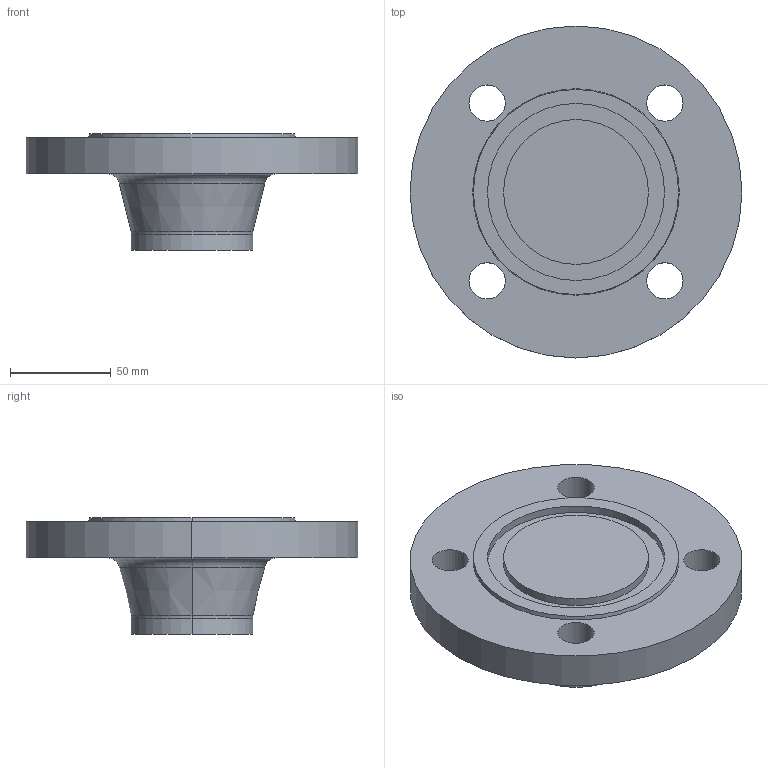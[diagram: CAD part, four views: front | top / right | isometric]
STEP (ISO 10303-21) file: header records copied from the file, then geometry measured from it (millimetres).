
FILE_DESCRIPTION (( 'STEP AP214' ), '1' );
FILE_NAME ('PN40 DN50 Type 21(ii) - Type D Face.STEP', '2018-12-30T03:21:51', ( '' ), ( '' ), 'SwSTEP 2.0', 'SolidWorks 2019', '' );
FILE_SCHEMA (( 'AUTOMOTIVE_DESIGN' ));
Length unit declared in the file: millimetre
Products named in the file (1): PN40 DN50 Type 21(ii) - Type D Face
Bounding box: 165 x 165 x 58 mm (x, y, z)
Volume: 505884.2 mm3; surface area: 62879.3 mm2
Topology: 1 solids, 1 shells, 30 faces, 66 edges, 42 vertices
Faces by surface type: cylinder 16, plane 6, torus 4, cone 4
Entity records: 898 total; most frequent: DIRECTION 174, CARTESIAN_POINT 139, ORIENTED_EDGE 132, AXIS2_PLACEMENT_3D 77, EDGE_CURVE 66, CIRCLE 46, EDGE_LOOP 42, VERTEX_POINT 42
